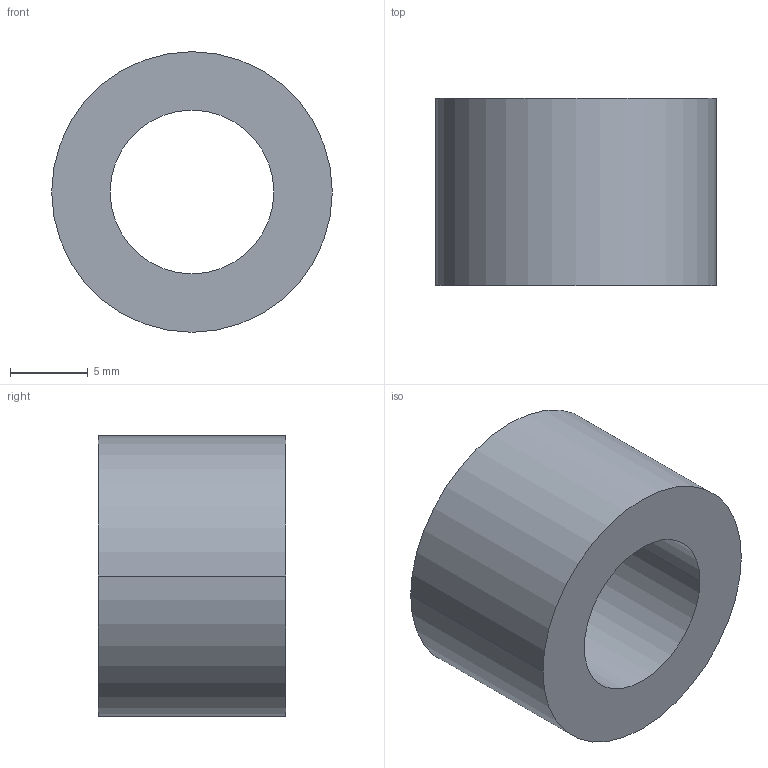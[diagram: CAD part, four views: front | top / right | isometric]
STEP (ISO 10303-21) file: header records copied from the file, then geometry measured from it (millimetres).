
FILE_DESCRIPTION (( 'STEP AP203' ), '1' );
FILE_NAME ('30800.WPP18E10.5.step', '2019-01-23T22:35:04', ( '' ), ( '' ), 'SwSTEP 2.0', 'SolidWorks 2017', '' );
FILE_SCHEMA (( 'CONFIG_CONTROL_DESIGN' ));
Length unit declared in the file: millimetre
Products named in the file (1): 30800.WPP18E10.5
Bounding box: 18 x 12 x 18 mm (x, y, z)
Volume: 1983.8 mm3; surface area: 1383.6 mm2
Topology: 1 solids, 1 shells, 8 faces, 16 edges, 10 vertices
Faces by surface type: cylinder 4, torus 2, plane 2
Entity records: 297 total; most frequent: DIRECTION 46, CARTESIAN_POINT 35, ORIENTED_EDGE 32, AXIS2_PLACEMENT_3D 21, EDGE_CURVE 16, CIRCLE 12, VERTEX_POINT 10, EDGE_LOOP 10
